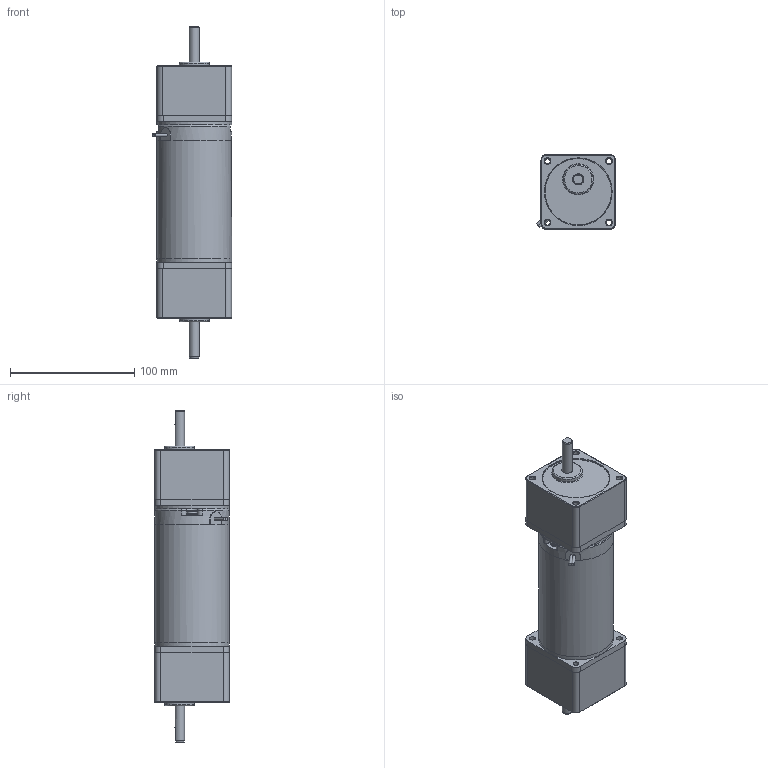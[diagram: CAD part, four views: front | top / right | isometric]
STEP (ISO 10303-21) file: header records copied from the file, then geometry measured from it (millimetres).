
FILE_DESCRIPTION((''),'2;1');
FILE_NAME('D:\yang\Yang cw\SPG 업무\2. DC MOTOR\7. DC MOTOR 브로슈어\DUAL GEAR-HEAD DC MOTOR\3D\STEP\S6D35-24A(OA80)- D-CUT.stp','2015-03-09T18:51:32',('ycw1227'),(''),'Autodesk Inventor 2013','Autodesk Inventor 2013','');
FILE_SCHEMA(('AUTOMOTIVE_DESIGN { 1 0 10303 214 1 1 1 1 }'));
Length unit declared in the file: millimetre
Products named in the file (1): 부품40
Bounding box: 63.59 x 60 x 267 mm (x, y, z)
Volume: 614863 mm3; surface area: 71167.1 mm2
Topology: 1 solids, 3 shells, 270 faces, 632 edges, 387 vertices
Faces by surface type: plane 110, cylinder 82, cone 42, torus 30, bspline 4, sphere 2
Full cylindrical faces by diameter (mm): 2.2 x2, 3.621 x2, 4 x2, 4.5 x18, 6 x2, 8 x2, 9 x4, 24 x2, 53.997 x2, 54 x2, 60 x4
Entity records: 8473 total; most frequent: CARTESIAN_POINT 2210, DIRECTION 1304, ORIENTED_EDGE 1126, AXIS2_PLACEMENT_3D 568, EDGE_CURVE 563, VERTEX_POINT 382, EDGE_LOOP 374, CIRCLE 277
